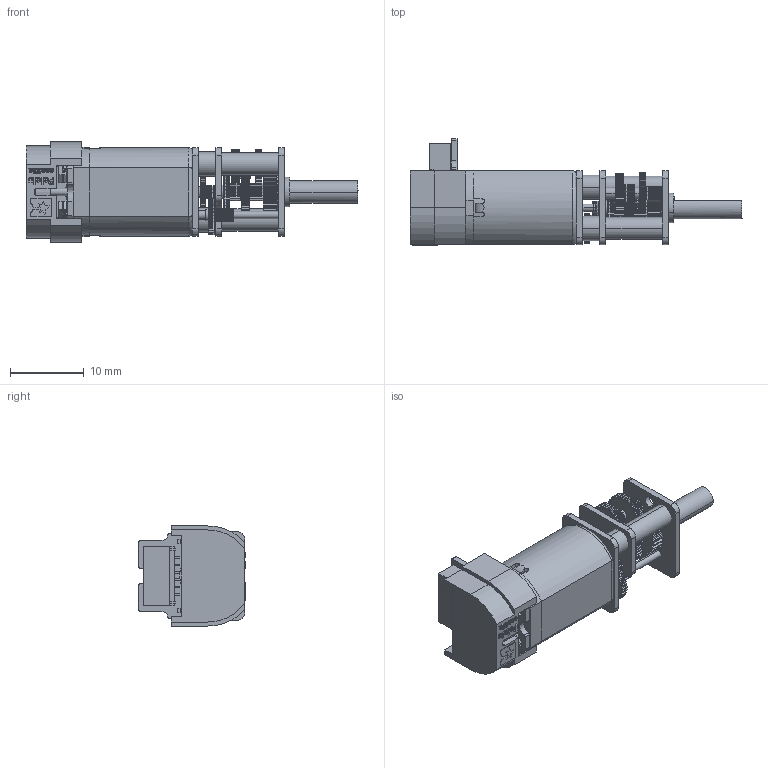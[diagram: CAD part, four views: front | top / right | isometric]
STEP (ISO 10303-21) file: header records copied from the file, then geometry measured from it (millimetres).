
FILE_DESCRIPTION (( 'STEP AP214' ), '1' );
FILE_NAME ('mmgm-1000-enc03d-cas02.STEP', '2024-05-02T01:36:14', ( '' ), ( '' ), 'SwSTEP 2.0', 'SolidWorks 2023', '' );
FILE_SCHEMA (( 'AUTOMOTIVE_DESIGN' ));
Length unit declared in the file: inch
Products named in the file (1): mmgm-1000-enc03d-cas02
Bounding box: 45.1 x 14.5 x 13.6 mm (x, y, z)
Volume: 2833.6 mm3; surface area: 3646.5 mm2
Topology: 1 solids, 3 shells, 3541 faces, 10450 edges, 6996 vertices
Faces by surface type: cylinder 1773, plane 1281, bspline 474, torus 7, cone 6
Entity records: 189604 total; most frequent: CARTESIAN_POINT 60678, ORIENTED_EDGE 20900, DIRECTION 12083, EDGE_CURVE 10450, VERTEX_POINT 6996, B_SPLINE_CURVE_WITH_KNOTS 5914, AXIS2_PLACEMENT_3D 4509, EDGE_LOOP 3688
